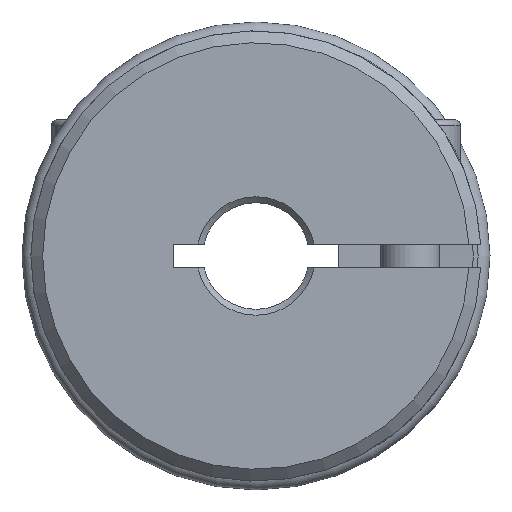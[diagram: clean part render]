
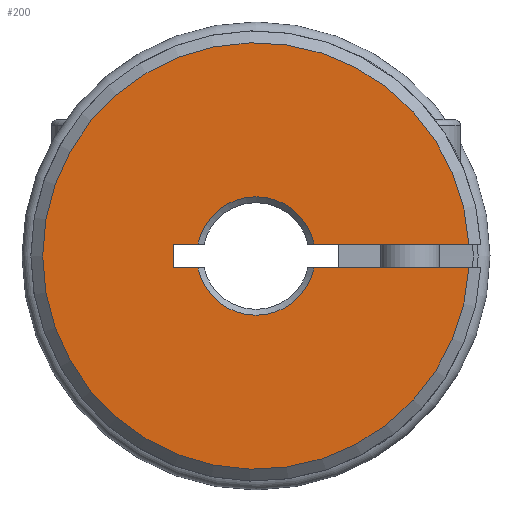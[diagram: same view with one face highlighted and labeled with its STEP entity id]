
A CAD part, left-side view. The second image highlights one B-rep face of the part: STEP entity #200.
In plain terms, the highlighted planar face has unit normal (-1, 0, 0).
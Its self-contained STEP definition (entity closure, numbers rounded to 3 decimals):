
#200 = ADVANCED_FACE( '', ( #505 ), #506, .T. );
#505 = FACE_OUTER_BOUND( '', #978, .T. );
#506 = PLANE( '', #979 );
#978 = EDGE_LOOP( '', ( #1500, #1501, #1502, #1503, #1504, #1505, #1506, #1507 ) );
#979 = AXIS2_PLACEMENT_3D( '', #1508, #1509, #1510 );
#1500 = ORIENTED_EDGE( '', *, *, #2359, .F. );
#1501 = ORIENTED_EDGE( '', *, *, #2427, .T. );
#1502 = ORIENTED_EDGE( '', *, *, #2428, .F. );
#1503 = ORIENTED_EDGE( '', *, *, #2429, .F. );
#1504 = ORIENTED_EDGE( '', *, *, #2430, .F. );
#1505 = ORIENTED_EDGE( '', *, *, #2431, .T. );
#1506 = ORIENTED_EDGE( '', *, *, #2432, .F. );
#1507 = ORIENTED_EDGE( '', *, *, #2433, .F. );
#1508 = CARTESIAN_POINT( '', ( -21.663, 0., 3. ) );
#1509 = DIRECTION( '', ( -1., 0., 0. ) );
#1510 = DIRECTION( '', ( 0., 1., 0. ) );
#2359 = EDGE_CURVE( '', #2722, #2724, #2725, .T. );
#2427 = EDGE_CURVE( '', #2722, #2840, #2841, .T. );
#2428 = EDGE_CURVE( '', #2842, #2840, #2843, .T. );
#2429 = EDGE_CURVE( '', #2844, #2842, #2845, .T. );
#2430 = EDGE_CURVE( '', #2846, #2844, #2847, .T. );
#2431 = EDGE_CURVE( '', #2846, #2848, #2849, .T. );
#2432 = EDGE_CURVE( '', #2850, #2848, #2851, .T. );
#2433 = EDGE_CURVE( '', #2724, #2850, #2852, .T. );
#2722 = VERTEX_POINT( '', #3255 );
#2724 = VERTEX_POINT( '', #3257 );
#2725 = LINE( '', #3258, #3259 );
#2840 = VERTEX_POINT( '', #3455 );
#2841 = CIRCLE( '', #3456, 5. );
#2842 = VERTEX_POINT( '', #3457 );
#2843 = LINE( '', #3458, #3459 );
#2844 = VERTEX_POINT( '', #3460 );
#2845 = CIRCLE( '', #3461, 18. );
#2846 = VERTEX_POINT( '', #3462 );
#2847 = LINE( '', #3463, #3464 );
#2848 = VERTEX_POINT( '', #3465 );
#2849 = CIRCLE( '', #3466, 5. );
#2850 = VERTEX_POINT( '', #3467 );
#2851 = LINE( '', #3468, #3469 );
#2852 = LINE( '', #3470, #3471 );
#3255 = CARTESIAN_POINT( '', ( -21.663, 4.899, 1. ) );
#3257 = CARTESIAN_POINT( '', ( -21.663, 7., 1. ) );
#3258 = CARTESIAN_POINT( '', ( -21.663, 0., 1. ) );
#3259 = VECTOR( '', #4160, 1000. );
#3455 = CARTESIAN_POINT( '', ( -21.663, -4.899, 1. ) );
#3456 = AXIS2_PLACEMENT_3D( '', #4268, #4269, #4270 );
#3457 = CARTESIAN_POINT( '', ( -21.663, -17.972, 1. ) );
#3458 = CARTESIAN_POINT( '', ( -21.663, 0., 1. ) );
#3459 = VECTOR( '', #4271, 1000. );
#3460 = CARTESIAN_POINT( '', ( -21.663, -17.972, -1. ) );
#3461 = AXIS2_PLACEMENT_3D( '', #4272, #4273, #4274 );
#3462 = CARTESIAN_POINT( '', ( -21.663, -4.899, -1. ) );
#3463 = CARTESIAN_POINT( '', ( -21.663, 0., -1. ) );
#3464 = VECTOR( '', #4275, 1000. );
#3465 = CARTESIAN_POINT( '', ( -21.663, 4.899, -1. ) );
#3466 = AXIS2_PLACEMENT_3D( '', #4276, #4277, #4278 );
#3467 = CARTESIAN_POINT( '', ( -21.663, 7., -1. ) );
#3468 = CARTESIAN_POINT( '', ( -21.663, 0., -1. ) );
#3469 = VECTOR( '', #4279, 1000. );
#3470 = CARTESIAN_POINT( '', ( -21.663, 7., 3. ) );
#3471 = VECTOR( '', #4280, 1000. );
#4160 = DIRECTION( '', ( 0., 1., 0. ) );
#4268 = CARTESIAN_POINT( '', ( -21.663, 0., 0. ) );
#4269 = DIRECTION( '', ( 1., 0., 0. ) );
#4270 = DIRECTION( '', ( 0., -1., 0. ) );
#4271 = DIRECTION( '', ( 0., 1., 0. ) );
#4272 = CARTESIAN_POINT( '', ( -21.663, 0., 0. ) );
#4273 = DIRECTION( '', ( 1., 0., 0. ) );
#4274 = DIRECTION( '', ( 0., 0., 1. ) );
#4275 = DIRECTION( '', ( 0., -1., 0. ) );
#4276 = CARTESIAN_POINT( '', ( -21.663, 0., 0. ) );
#4277 = DIRECTION( '', ( 1., 0., 0. ) );
#4278 = DIRECTION( '', ( 0., -1., 0. ) );
#4279 = DIRECTION( '', ( 0., -1., 0. ) );
#4280 = DIRECTION( '', ( 0., 0., -1. ) );
